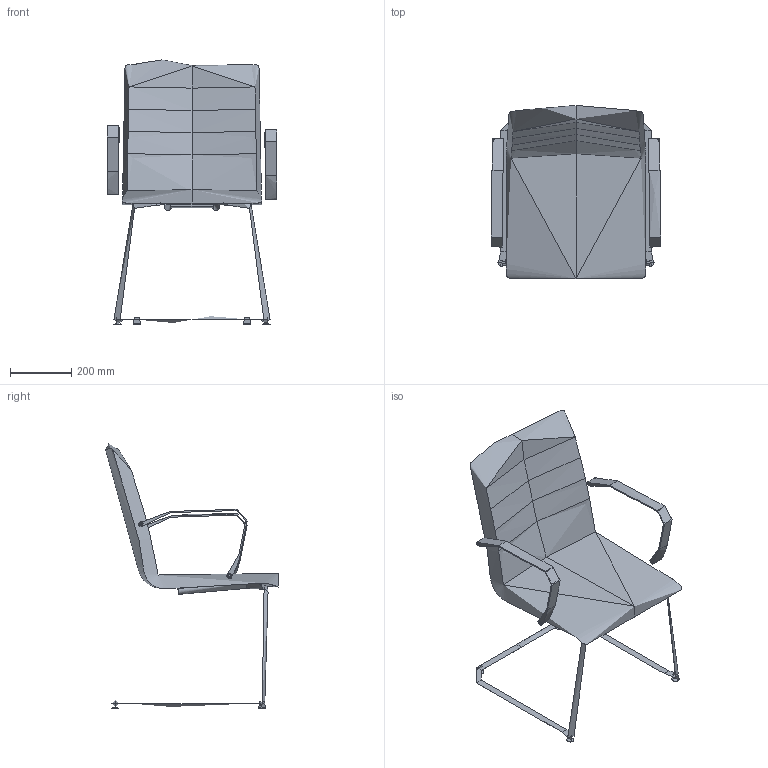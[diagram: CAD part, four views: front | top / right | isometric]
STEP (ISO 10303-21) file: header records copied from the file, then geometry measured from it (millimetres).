
FILE_DESCRIPTION(/* description */ (''),/* implementation_level */ '2;1');
FILE_NAME(/* name */ 'OS33DB~1',/* time_stamp */ '2017-08-07T21:16:23+02:00',/* author */ (''),/* organization */ (''),/* preprocessor_version */ 'ST-DEVELOPER v15',/* originating_system */ '',/* authorisation */ '');
FILE_SCHEMA (('CONFIG_CONTROL_DESIGN'));
Length unit declared in the file: millimetre
Products named in the file (1): Document
Bounding box: 553.21 x 563.76 x 862.05 mm (x, y, z)
Volume: 18607934.4 mm3; surface area: 1282750.7 mm2
Topology: 5 solids, 9 shells, 164 faces, 366 edges, 229 vertices
Faces by surface type: bspline 112, plane 52
Entity records: 11357 total; most frequent: CARTESIAN_POINT 9122, ORIENTED_EDGE 718, EDGE_CURVE 363, VERTEX_POINT 225, EDGE_LOOP 176, ADVANCED_FACE 164, FACE_OUTER_BOUND 164, B_SPLINE_CURVE_WITH_KNOTS 119
